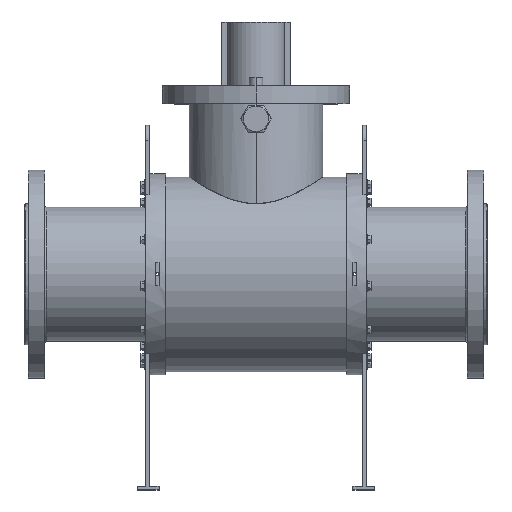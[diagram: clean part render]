
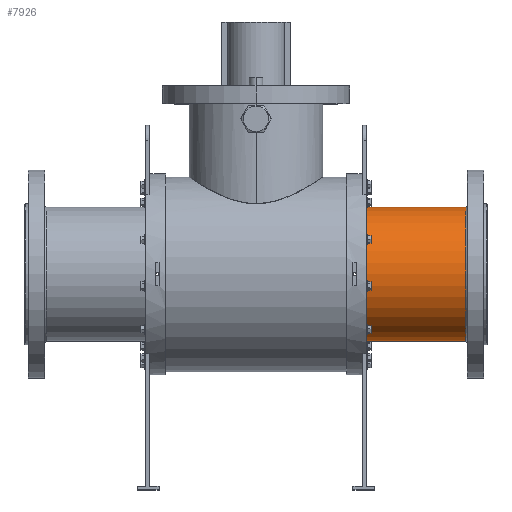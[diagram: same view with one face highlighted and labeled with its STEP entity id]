
A CAD part, top view. The second image highlights one B-rep face of the part: STEP entity #7926.
In plain terms, the highlighted cylindrical face has radius 201 mm (diameter 402 mm), a partial arc.
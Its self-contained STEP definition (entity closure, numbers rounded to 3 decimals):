
#213 = CARTESIAN_POINT ( 'NONE',  ( 330., 0., 0. ) ) ;
#310 = CIRCLE ( 'NONE', #4302, 201. ) ;
#339 = VERTEX_POINT ( 'NONE', #7776 ) ;
#1052 = CARTESIAN_POINT ( 'NONE',  ( -692., 0., 0. ) ) ;
#1215 = LINE ( 'NONE', #3570, #9734 ) ;
#2361 = DIRECTION ( 'NONE',  ( 0., 1., 0. ) ) ;
#2440 = CARTESIAN_POINT ( 'NONE',  ( -692., -201., 0. ) ) ;
#2726 = AXIS2_PLACEMENT_3D ( 'NONE', #1052, #7183, #11433 ) ;
#2956 = VERTEX_POINT ( 'NONE', #6634 ) ;
#3570 = CARTESIAN_POINT ( 'NONE',  ( -692., 201., 0. ) ) ;
#3628 = VERTEX_POINT ( 'NONE', #11513 ) ;
#4259 = CIRCLE ( 'NONE', #5153, 201. ) ;
#4302 = AXIS2_PLACEMENT_3D ( 'NONE', #213, #10104, #13009 ) ;
#5153 = AXIS2_PLACEMENT_3D ( 'NONE', #10584, #6542, #2361 ) ;
#5580 = VECTOR ( 'NONE', #12807, 1000. ) ;
#5731 = EDGE_CURVE ( 'NONE', #13483, #3628, #9815, .T. ) ;
#6542 = DIRECTION ( 'NONE',  ( -1., 0., 0. ) ) ;
#6634 = CARTESIAN_POINT ( 'NONE',  ( 330., 201., 0. ) ) ;
#7183 = DIRECTION ( 'NONE',  ( -1., 0., 0. ) ) ;
#7637 = ORIENTED_EDGE ( 'NONE', *, *, #10181, .T. ) ;
#7681 = DIRECTION ( 'NONE',  ( -1., 0., 0. ) ) ;
#7776 = CARTESIAN_POINT ( 'NONE',  ( 627., 201., 0. ) ) ;
#7926 = ADVANCED_FACE ( 'NONE', ( #13650 ), #9478, .T. ) ;
#8930 = EDGE_CURVE ( 'NONE', #13483, #339, #4259, .T. ) ;
#9186 = ORIENTED_EDGE ( 'NONE', *, *, #5731, .F. ) ;
#9478 = CYLINDRICAL_SURFACE ( 'NONE', #2726, 201. ) ;
#9734 = VECTOR ( 'NONE', #7681, 1000. ) ;
#9784 = ORIENTED_EDGE ( 'NONE', *, *, #8930, .T. ) ;
#9815 = LINE ( 'NONE', #2440, #5580 ) ;
#10104 = DIRECTION ( 'NONE',  ( 1., 0., 0. ) ) ;
#10181 = EDGE_CURVE ( 'NONE', #2956, #3628, #310, .T. ) ;
#10527 = CARTESIAN_POINT ( 'NONE',  ( 627., -201., 0. ) ) ;
#10584 = CARTESIAN_POINT ( 'NONE',  ( 627., 0., 0. ) ) ;
#11148 = ORIENTED_EDGE ( 'NONE', *, *, #12425, .T. ) ;
#11433 = DIRECTION ( 'NONE',  ( 0., -1., 0. ) ) ;
#11513 = CARTESIAN_POINT ( 'NONE',  ( 330., -201., 0. ) ) ;
#12425 = EDGE_CURVE ( 'NONE', #339, #2956, #1215, .T. ) ;
#12807 = DIRECTION ( 'NONE',  ( -1., 0., 0. ) ) ;
#12998 = EDGE_LOOP ( 'NONE', ( #9784, #11148, #7637, #9186 ) ) ;
#13009 = DIRECTION ( 'NONE',  ( 0., 0., -1. ) ) ;
#13483 = VERTEX_POINT ( 'NONE', #10527 ) ;
#13650 = FACE_OUTER_BOUND ( 'NONE', #12998, .T. ) ;
